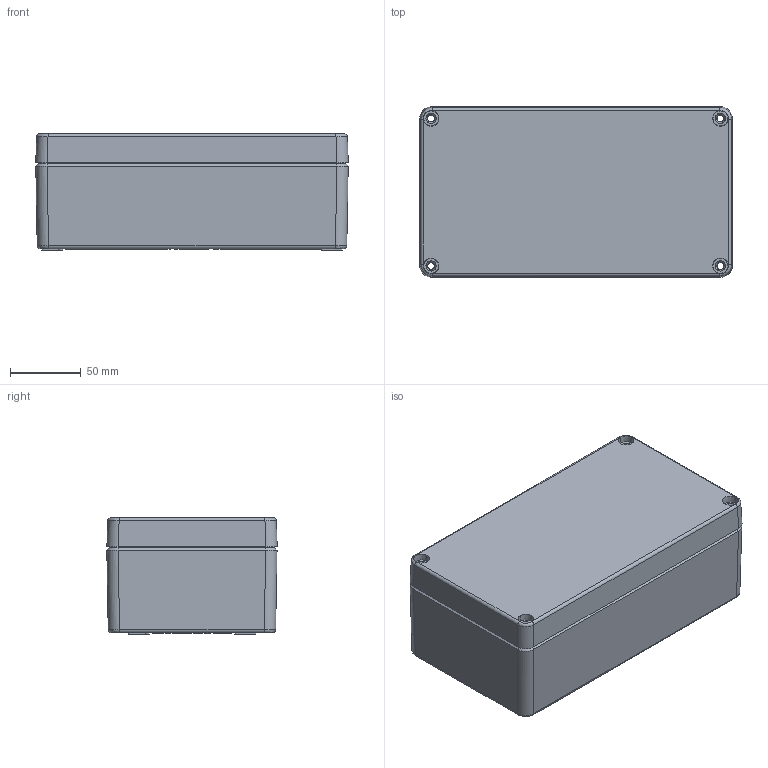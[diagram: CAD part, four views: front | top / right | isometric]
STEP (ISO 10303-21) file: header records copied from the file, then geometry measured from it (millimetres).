
FILE_DESCRIPTION (( 'STEP AP203' ), '1' );
FILE_NAME ('ALU ASSY 22012080.STEP', '2024-08-27T09:06:24', ( '' ), ( '' ), 'SwSTEP 2.0', 'SolidWorks 2018', '' );
FILE_SCHEMA (( 'CONFIG_CONTROL_DESIGN' ));
Length unit declared in the file: millimetre
Products named in the file (3): ALU BASE 22012080; ALU LID 22012080; ALU ASSY 22012080
Assembly tree (2 placements, depth 2):
  ALU ASSY 22012080
    ALU BASE 22012080
    ALU LID 22012080
Bounding box: 220.34 x 120.14 x 82 mm (x, y, z)
Volume: 503859.7 mm3; surface area: 221094.5 mm2
Topology: 2 solids, 2 shells, 1693 faces, 4606 edges, 2998 vertices
Faces by surface type: plane 1251, cylinder 218, bspline 170, cone 54
Entity records: 66506 total; most frequent: CARTESIAN_POINT 24854, ORIENTED_EDGE 9164, DIRECTION 7548, EDGE_CURVE 4582, VECTOR 3700, LINE 3700, VERTEX_POINT 2998, AXIS2_PLACEMENT_3D 1924
